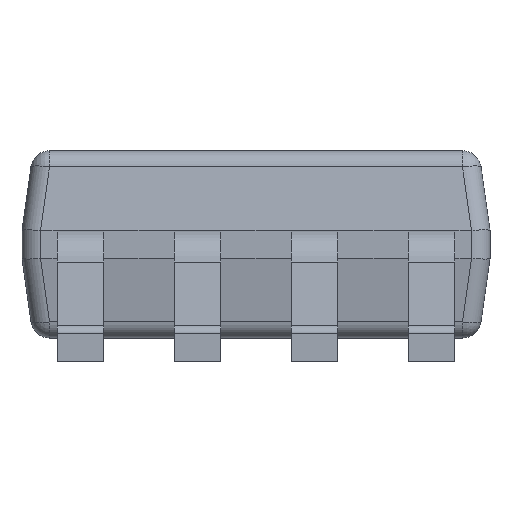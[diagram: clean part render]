
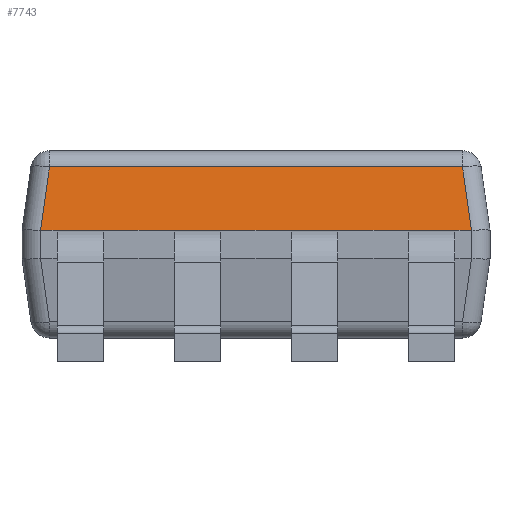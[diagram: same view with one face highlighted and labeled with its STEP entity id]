
A CAD part, left-side view. The second image highlights one B-rep face of the part: STEP entity #7743.
In plain terms, the highlighted planar face has unit normal (-0.99, 0, 0.139).
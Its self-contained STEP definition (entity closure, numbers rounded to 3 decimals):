
#28 = DIRECTION ( 'NONE',  ( 0.99, 0., -0.139 ) ) ;
#193 = VECTOR ( 'NONE', #7252, 1000. ) ;
#195 = CARTESIAN_POINT ( 'NONE',  ( -1.15, 0.92, 0.56 ) ) ;
#641 = EDGE_CURVE ( 'NONE', #9609, #9506, #4282, .T. ) ;
#662 = EDGE_CURVE ( 'NONE', #13196, #2822, #4529, .T. ) ;
#1574 = CARTESIAN_POINT ( 'NONE',  ( -1.15, -0.35, 0.56 ) ) ;
#1672 = DIRECTION ( 'NONE',  ( 0., -1., 0. ) ) ;
#1679 = VERTEX_POINT ( 'NONE', #12210 ) ;
#1820 = CARTESIAN_POINT ( 'NONE',  ( -1.15, 0.92, 0.56 ) ) ;
#1874 = VECTOR ( 'NONE', #7955, 1000. ) ;
#1992 = CARTESIAN_POINT ( 'NONE',  ( -1.15, 0.85, 0.56 ) ) ;
#2077 = LINE ( 'NONE', #1992, #13309 ) ;
#2084 =( BOUNDED_CURVE ( )  B_SPLINE_CURVE ( 3, ( #4589, #7423, #15876, #10198 ),
 .UNSPECIFIED., .F., .F. ) 
 B_SPLINE_CURVE_WITH_KNOTS ( ( 4, 4 ),
 ( 0., 0.01 ),
 .UNSPECIFIED. ) 
 CURVE ( )  GEOMETRIC_REPRESENTATION_ITEM ( )  RATIONAL_B_SPLINE_CURVE ( ( 1., 1., 1., 1. ) ) 
 REPRESENTATION_ITEM ( '' )  );
#2160 = CARTESIAN_POINT ( 'NONE',  ( -1.15, -1., 0.56 ) ) ;
#2285 = CARTESIAN_POINT ( 'NONE',  ( -1.15, -0.15, 0.56 ) ) ;
#2333 = LINE ( 'NONE', #13578, #9730 ) ;
#2448 = PLANE ( 'NONE',  #13756 ) ;
#2563 = VERTEX_POINT ( 'NONE', #5886 ) ;
#2597 = EDGE_CURVE ( 'NONE', #1679, #16677, #7238, .T. ) ;
#2822 = VERTEX_POINT ( 'NONE', #195 ) ;
#2861 = ORIENTED_EDGE ( 'NONE', *, *, #17115, .F. ) ;
#2899 = CARTESIAN_POINT ( 'NONE',  ( -1.15, 0.85, 0.56 ) ) ;
#3258 = CARTESIAN_POINT ( 'NONE',  ( -1.15, 0.921, 0.56 ) ) ;
#3498 = EDGE_CURVE ( 'NONE', #15910, #9586, #2084, .T. ) ;
#3643 = CARTESIAN_POINT ( 'NONE',  ( -1.15, -0.92, 0.56 ) ) ;
#3719 = CARTESIAN_POINT ( 'NONE',  ( -1.15, -0.65, 0.56 ) ) ;
#4282 = LINE ( 'NONE', #14320, #12751 ) ;
#4512 = DIRECTION ( 'NONE',  ( 0., 1., 0. ) ) ;
#4529 =( BOUNDED_CURVE ( )  B_SPLINE_CURVE ( 3, ( #14240, #3258, #1820, #9959 ),
 .UNSPECIFIED., .F., .F. ) 
 B_SPLINE_CURVE_WITH_KNOTS ( ( 4, 4 ),
 ( 6.274, 6.283 ),
 .UNSPECIFIED. ) 
 CURVE ( )  GEOMETRIC_REPRESENTATION_ITEM ( )  RATIONAL_B_SPLINE_CURVE ( ( 1., 1., 1., 1. ) ) 
 REPRESENTATION_ITEM ( '' )  );
#4571 = VECTOR ( 'NONE', #4512, 1000. ) ;
#4589 = CARTESIAN_POINT ( 'NONE',  ( -1.15, -0.92, 0.56 ) ) ;
#4864 = EDGE_LOOP ( 'NONE', ( #12001, #7416, #12154, #18016, #11606, #11503, #2861, #11861, #6476, #6813, #14664, #5936, #14885, #8169 ) ) ;
#5118 = VERTEX_POINT ( 'NONE', #17991 ) ;
#5886 = CARTESIAN_POINT ( 'NONE',  ( -1.112, 0.883, 0.831 ) ) ;
#5902 = VECTOR ( 'NONE', #9144, 1000. ) ;
#5936 = ORIENTED_EDGE ( 'NONE', *, *, #12301, .T. ) ;
#5981 = VECTOR ( 'NONE', #10852, 1000. ) ;
#6476 = ORIENTED_EDGE ( 'NONE', *, *, #11090, .F. ) ;
#6568 = CARTESIAN_POINT ( 'NONE',  ( -1.15, 0.35, 0.56 ) ) ;
#6660 = CARTESIAN_POINT ( 'NONE',  ( -1.15, 0.921, 0.56 ) ) ;
#6813 = ORIENTED_EDGE ( 'NONE', *, *, #16695, .T. ) ;
#7238 = LINE ( 'NONE', #13946, #4571 ) ;
#7252 = DIRECTION ( 'NONE',  ( 0., -1., 0. ) ) ;
#7416 = ORIENTED_EDGE ( 'NONE', *, *, #3498, .T. ) ;
#7423 = CARTESIAN_POINT ( 'NONE',  ( -1.15, -0.92, 0.56 ) ) ;
#7703 = LINE ( 'NONE', #17144, #193 ) ;
#7743 = ADVANCED_FACE ( 'NONE', ( #8111 ), #2448, .F. ) ;
#7766 = LINE ( 'NONE', #2285, #5902 ) ;
#7812 = DIRECTION ( 'NONE',  ( 0.138, 0.138, 0.981 ) ) ;
#7865 = CARTESIAN_POINT ( 'NONE',  ( -1.15, -0.85, 0.56 ) ) ;
#7955 = DIRECTION ( 'NONE',  ( 0., 1., 0. ) ) ;
#8111 = FACE_OUTER_BOUND ( 'NONE', #4864, .T. ) ;
#8169 = ORIENTED_EDGE ( 'NONE', *, *, #16478, .T. ) ;
#8320 = CARTESIAN_POINT ( 'NONE',  ( -1.15, -1., 0.56 ) ) ;
#8757 = VERTEX_POINT ( 'NONE', #16642 ) ;
#8775 = VERTEX_POINT ( 'NONE', #6568 ) ;
#8782 = CARTESIAN_POINT ( 'NONE',  ( -1.086, 0.856, 1.018 ) ) ;
#8824 = LINE ( 'NONE', #2160, #8834 ) ;
#8834 = VECTOR ( 'NONE', #11581, 1000. ) ;
#9144 = DIRECTION ( 'NONE',  ( 0., -1., 0. ) ) ;
#9506 = VERTEX_POINT ( 'NONE', #1574 ) ;
#9586 = VERTEX_POINT ( 'NONE', #10507 ) ;
#9609 = VERTEX_POINT ( 'NONE', #3719 ) ;
#9674 = DIRECTION ( 'NONE',  ( 0., -1., 0. ) ) ;
#9730 = VECTOR ( 'NONE', #7812, 1000. ) ;
#9894 = EDGE_CURVE ( 'NONE', #16080, #5118, #2077, .T. ) ;
#9959 = CARTESIAN_POINT ( 'NONE',  ( -1.15, 0.92, 0.56 ) ) ;
#10198 = CARTESIAN_POINT ( 'NONE',  ( -1.15, -0.921, 0.56 ) ) ;
#10507 = CARTESIAN_POINT ( 'NONE',  ( -1.15, -0.921, 0.56 ) ) ;
#10676 = EDGE_CURVE ( 'NONE', #8757, #2563, #17795, .T. ) ;
#10852 = DIRECTION ( 'NONE',  ( 0., 1., 0. ) ) ;
#10994 = LINE ( 'NONE', #8320, #16998 ) ;
#11001 = EDGE_CURVE ( 'NONE', #2563, #13196, #16936, .T. ) ;
#11090 = EDGE_CURVE ( 'NONE', #8775, #5118, #11922, .T. ) ;
#11190 = EDGE_CURVE ( 'NONE', #15910, #13520, #10994, .T. ) ;
#11503 = ORIENTED_EDGE ( 'NONE', *, *, #662, .T. ) ;
#11581 = DIRECTION ( 'NONE',  ( 0., 1., 0. ) ) ;
#11606 = ORIENTED_EDGE ( 'NONE', *, *, #11001, .T. ) ;
#11861 = ORIENTED_EDGE ( 'NONE', *, *, #9894, .T. ) ;
#11922 = LINE ( 'NONE', #16047, #1874 ) ;
#12001 = ORIENTED_EDGE ( 'NONE', *, *, #11190, .F. ) ;
#12154 = ORIENTED_EDGE ( 'NONE', *, *, #17275, .T. ) ;
#12210 = CARTESIAN_POINT ( 'NONE',  ( -1.15, -0.15, 0.56 ) ) ;
#12301 = EDGE_CURVE ( 'NONE', #1679, #9506, #7766, .T. ) ;
#12645 = LINE ( 'NONE', #13996, #17863 ) ;
#12714 = DIRECTION ( 'NONE',  ( 0., 1., 0. ) ) ;
#12751 = VECTOR ( 'NONE', #12714, 1000. ) ;
#13196 = VERTEX_POINT ( 'NONE', #6660 ) ;
#13309 = VECTOR ( 'NONE', #15918, 1000. ) ;
#13520 = VERTEX_POINT ( 'NONE', #7865 ) ;
#13578 = CARTESIAN_POINT ( 'NONE',  ( -1.086, -0.856, 1.018 ) ) ;
#13756 = AXIS2_PLACEMENT_3D ( 'NONE', #16812, #28, #9674 ) ;
#13946 = CARTESIAN_POINT ( 'NONE',  ( -1.15, -1., 0.56 ) ) ;
#13996 = CARTESIAN_POINT ( 'NONE',  ( -1.15, 0.35, 0.56 ) ) ;
#14240 = CARTESIAN_POINT ( 'NONE',  ( -1.15, 0.921, 0.56 ) ) ;
#14320 = CARTESIAN_POINT ( 'NONE',  ( -1.15, -1., 0.56 ) ) ;
#14372 = DIRECTION ( 'NONE',  ( -0.138, 0.138, -0.981 ) ) ;
#14664 = ORIENTED_EDGE ( 'NONE', *, *, #2597, .F. ) ;
#14885 = ORIENTED_EDGE ( 'NONE', *, *, #641, .F. ) ;
#15400 = CARTESIAN_POINT ( 'NONE',  ( -1.15, 0.15, 0.56 ) ) ;
#15876 = CARTESIAN_POINT ( 'NONE',  ( -1.15, -0.921, 0.56 ) ) ;
#15910 = VERTEX_POINT ( 'NONE', #3643 ) ;
#15918 = DIRECTION ( 'NONE',  ( 0., -1., 0. ) ) ;
#16047 = CARTESIAN_POINT ( 'NONE',  ( -1.15, -1., 0.56 ) ) ;
#16080 = VERTEX_POINT ( 'NONE', #2899 ) ;
#16478 = EDGE_CURVE ( 'NONE', #9609, #13520, #7703, .T. ) ;
#16488 = VECTOR ( 'NONE', #14372, 1000. ) ;
#16575 = DIRECTION ( 'NONE',  ( 0., 1., 0. ) ) ;
#16642 = CARTESIAN_POINT ( 'NONE',  ( -1.112, -0.883, 0.831 ) ) ;
#16677 = VERTEX_POINT ( 'NONE', #15400 ) ;
#16695 = EDGE_CURVE ( 'NONE', #8775, #16677, #12645, .T. ) ;
#16812 = CARTESIAN_POINT ( 'NONE',  ( -1.102, 0., 0.9 ) ) ;
#16936 = LINE ( 'NONE', #8782, #16488 ) ;
#16998 = VECTOR ( 'NONE', #16575, 1000. ) ;
#17115 = EDGE_CURVE ( 'NONE', #16080, #2822, #8824, .T. ) ;
#17144 = CARTESIAN_POINT ( 'NONE',  ( -1.15, -0.65, 0.56 ) ) ;
#17275 = EDGE_CURVE ( 'NONE', #9586, #8757, #2333, .T. ) ;
#17795 = LINE ( 'NONE', #17982, #5981 ) ;
#17863 = VECTOR ( 'NONE', #1672, 1000. ) ;
#17982 = CARTESIAN_POINT ( 'NONE',  ( -1.112, 0.952, 0.831 ) ) ;
#17991 = CARTESIAN_POINT ( 'NONE',  ( -1.15, 0.65, 0.56 ) ) ;
#18016 = ORIENTED_EDGE ( 'NONE', *, *, #10676, .T. ) ;
